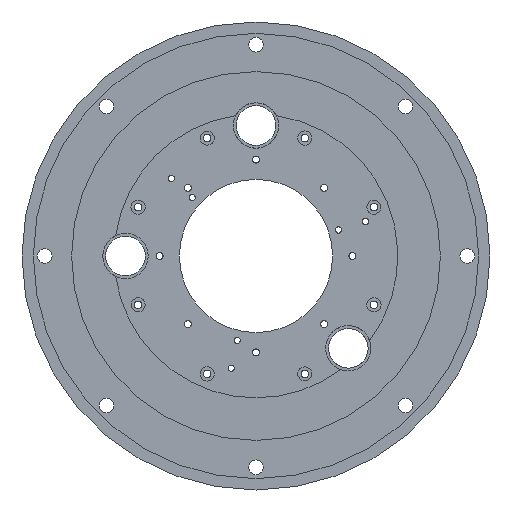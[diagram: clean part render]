
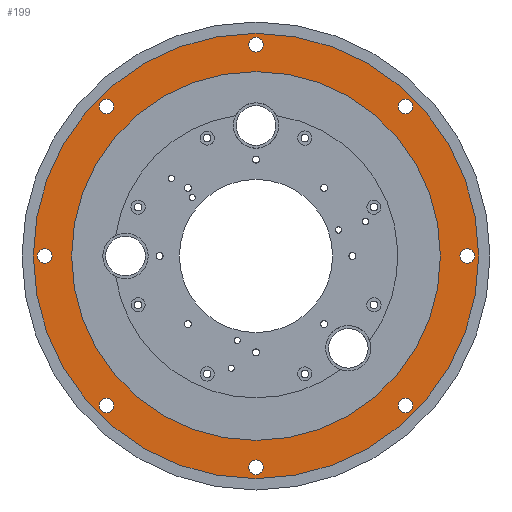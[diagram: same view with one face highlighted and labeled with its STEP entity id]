
A CAD part, front view. The second image highlights one B-rep face of the part: STEP entity #199.
In plain terms, the highlighted planar face has unit normal (0, -1, 0).
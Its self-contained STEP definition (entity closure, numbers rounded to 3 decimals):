
#199=ADVANCED_FACE('',(#569,#570,#571,#572,#573,#574,#575,#576,#577,#374),
#1776,.T.);
#374=FACE_OUTER_BOUND('',#663,.F.);
#569=FACE_BOUND('',#654,.F.);
#570=FACE_BOUND('',#655,.F.);
#571=FACE_BOUND('',#656,.F.);
#572=FACE_BOUND('',#657,.F.);
#573=FACE_BOUND('',#658,.F.);
#574=FACE_BOUND('',#659,.F.);
#575=FACE_BOUND('',#660,.F.);
#576=FACE_BOUND('',#661,.F.);
#577=FACE_BOUND('',#662,.F.);
#654=EDGE_LOOP('',(#952,#953));
#655=EDGE_LOOP('',(#954,#955));
#656=EDGE_LOOP('',(#956,#957));
#657=EDGE_LOOP('',(#958,#959));
#658=EDGE_LOOP('',(#960,#961));
#659=EDGE_LOOP('',(#962,#963));
#660=EDGE_LOOP('',(#964,#965));
#661=EDGE_LOOP('',(#966,#967));
#662=EDGE_LOOP('',(#968,#969));
#663=EDGE_LOOP('',(#970,#971));
#952=ORIENTED_EDGE('',*,*,#2177,.T.);
#953=ORIENTED_EDGE('',*,*,#2176,.T.);
#954=ORIENTED_EDGE('',*,*,#2185,.T.);
#955=ORIENTED_EDGE('',*,*,#2184,.T.);
#956=ORIENTED_EDGE('',*,*,#2193,.T.);
#957=ORIENTED_EDGE('',*,*,#2192,.T.);
#958=ORIENTED_EDGE('',*,*,#2201,.T.);
#959=ORIENTED_EDGE('',*,*,#2200,.T.);
#960=ORIENTED_EDGE('',*,*,#2227,.T.);
#961=ORIENTED_EDGE('',*,*,#2225,.T.);
#962=ORIENTED_EDGE('',*,*,#2197,.T.);
#963=ORIENTED_EDGE('',*,*,#2196,.T.);
#964=ORIENTED_EDGE('',*,*,#2189,.T.);
#965=ORIENTED_EDGE('',*,*,#2188,.T.);
#966=ORIENTED_EDGE('',*,*,#2181,.T.);
#967=ORIENTED_EDGE('',*,*,#2180,.T.);
#968=ORIENTED_EDGE('',*,*,#2173,.T.);
#969=ORIENTED_EDGE('',*,*,#2172,.T.);
#970=ORIENTED_EDGE('',*,*,#2205,.F.);
#971=ORIENTED_EDGE('',*,*,#2204,.F.);
#1776=PLANE('',#3434);
#2172=EDGE_CURVE('',#3162,#3161,#2617,.T.);
#2173=EDGE_CURVE('',#3161,#3162,#2618,.T.);
#2176=EDGE_CURVE('',#3158,#3157,#2621,.T.);
#2177=EDGE_CURVE('',#3157,#3158,#2622,.T.);
#2180=EDGE_CURVE('',#3154,#3153,#2625,.T.);
#2181=EDGE_CURVE('',#3153,#3154,#2626,.T.);
#2184=EDGE_CURVE('',#3150,#3149,#2629,.T.);
#2185=EDGE_CURVE('',#3149,#3150,#2630,.T.);
#2188=EDGE_CURVE('',#3146,#3145,#2633,.T.);
#2189=EDGE_CURVE('',#3145,#3146,#2634,.T.);
#2192=EDGE_CURVE('',#3142,#3141,#2637,.T.);
#2193=EDGE_CURVE('',#3141,#3142,#2638,.T.);
#2196=EDGE_CURVE('',#3138,#3137,#2641,.T.);
#2197=EDGE_CURVE('',#3137,#3138,#2642,.T.);
#2200=EDGE_CURVE('',#3134,#3133,#2645,.T.);
#2201=EDGE_CURVE('',#3133,#3134,#2646,.T.);
#2204=EDGE_CURVE('',#3130,#3129,#2649,.T.);
#2205=EDGE_CURVE('',#3129,#3130,#2650,.T.);
#2225=EDGE_CURVE('',#3107,#3106,#2664,.T.);
#2227=EDGE_CURVE('',#3106,#3107,#2666,.T.);
#2617=CIRCLE('',#3169,2.6);
#2618=CIRCLE('',#3170,2.6);
#2621=CIRCLE('',#3173,2.6);
#2622=CIRCLE('',#3174,2.6);
#2625=CIRCLE('',#3177,2.6);
#2626=CIRCLE('',#3178,2.6);
#2629=CIRCLE('',#3181,2.6);
#2630=CIRCLE('',#3182,2.6);
#2633=CIRCLE('',#3185,2.6);
#2634=CIRCLE('',#3186,2.6);
#2637=CIRCLE('',#3189,2.6);
#2638=CIRCLE('',#3190,2.6);
#2641=CIRCLE('',#3193,2.6);
#2642=CIRCLE('',#3194,2.6);
#2645=CIRCLE('',#3197,2.6);
#2646=CIRCLE('',#3198,2.6);
#2649=CIRCLE('',#3201,78.5);
#2650=CIRCLE('',#3202,78.5);
#2664=CIRCLE('',#3216,65.);
#2666=CIRCLE('',#3218,65.);
#3106=VERTEX_POINT('',#4898);
#3107=VERTEX_POINT('',#4899);
#3129=VERTEX_POINT('',#4921);
#3130=VERTEX_POINT('',#4922);
#3133=VERTEX_POINT('',#4925);
#3134=VERTEX_POINT('',#4926);
#3137=VERTEX_POINT('',#4929);
#3138=VERTEX_POINT('',#4930);
#3141=VERTEX_POINT('',#4933);
#3142=VERTEX_POINT('',#4934);
#3145=VERTEX_POINT('',#4937);
#3146=VERTEX_POINT('',#4938);
#3149=VERTEX_POINT('',#4941);
#3150=VERTEX_POINT('',#4942);
#3153=VERTEX_POINT('',#4945);
#3154=VERTEX_POINT('',#4946);
#3157=VERTEX_POINT('',#4949);
#3158=VERTEX_POINT('',#4950);
#3161=VERTEX_POINT('',#4953);
#3162=VERTEX_POINT('',#4954);
#3169=AXIS2_PLACEMENT_3D('',#4959,#3613,#3614);
#3170=AXIS2_PLACEMENT_3D('',#4960,#3615,#3616);
#3173=AXIS2_PLACEMENT_3D('',#4963,#3621,#3622);
#3174=AXIS2_PLACEMENT_3D('',#4964,#3623,#3624);
#3177=AXIS2_PLACEMENT_3D('',#4967,#3629,#3630);
#3178=AXIS2_PLACEMENT_3D('',#4968,#3631,#3632);
#3181=AXIS2_PLACEMENT_3D('',#4971,#3637,#3638);
#3182=AXIS2_PLACEMENT_3D('',#4972,#3639,#3640);
#3185=AXIS2_PLACEMENT_3D('',#4975,#3645,#3646);
#3186=AXIS2_PLACEMENT_3D('',#4976,#3647,#3648);
#3189=AXIS2_PLACEMENT_3D('',#4979,#3653,#3654);
#3190=AXIS2_PLACEMENT_3D('',#4980,#3655,#3656);
#3193=AXIS2_PLACEMENT_3D('',#4983,#3661,#3662);
#3194=AXIS2_PLACEMENT_3D('',#4984,#3663,#3664);
#3197=AXIS2_PLACEMENT_3D('',#4987,#3669,#3670);
#3198=AXIS2_PLACEMENT_3D('',#4988,#3671,#3672);
#3201=AXIS2_PLACEMENT_3D('',#4991,#3677,#3678);
#3202=AXIS2_PLACEMENT_3D('',#4992,#3679,#3680);
#3216=AXIS2_PLACEMENT_3D('',#5012,#3713,#3714);
#3218=AXIS2_PLACEMENT_3D('',#5014,#3717,#3718);
#3434=AXIS2_PLACEMENT_3D('',#5405,#4324,#4325);
#3613=DIRECTION('',(0.,-1.,0.));
#3614=DIRECTION('',(0.707,0.,-0.707));
#3615=DIRECTION('',(0.,-1.,0.));
#3616=DIRECTION('',(-0.707,0.,0.707));
#3621=DIRECTION('',(0.,-1.,0.));
#3622=DIRECTION('',(1.,0.,0.));
#3623=DIRECTION('',(0.,-1.,0.));
#3624=DIRECTION('',(-1.,0.,0.));
#3629=DIRECTION('',(0.,-1.,0.));
#3630=DIRECTION('',(0.707,0.,0.707));
#3631=DIRECTION('',(0.,-1.,0.));
#3632=DIRECTION('',(-0.707,0.,-0.707));
#3637=DIRECTION('',(0.,-1.,0.));
#3638=DIRECTION('',(0.,0.,1.));
#3639=DIRECTION('',(0.,-1.,0.));
#3640=DIRECTION('',(0.,0.,-1.));
#3645=DIRECTION('',(0.,-1.,0.));
#3646=DIRECTION('',(-0.707,0.,0.707));
#3647=DIRECTION('',(0.,-1.,0.));
#3648=DIRECTION('',(0.707,0.,-0.707));
#3653=DIRECTION('',(0.,-1.,0.));
#3654=DIRECTION('',(-1.,0.,0.));
#3655=DIRECTION('',(0.,-1.,0.));
#3656=DIRECTION('',(1.,0.,0.));
#3661=DIRECTION('',(0.,-1.,0.));
#3662=DIRECTION('',(-0.707,0.,-0.707));
#3663=DIRECTION('',(0.,-1.,0.));
#3664=DIRECTION('',(0.707,0.,0.707));
#3669=DIRECTION('',(0.,-1.,0.));
#3670=DIRECTION('',(0.,0.,-1.));
#3671=DIRECTION('',(0.,-1.,0.));
#3672=DIRECTION('',(0.,0.,1.));
#3677=DIRECTION('',(0.,-1.,0.));
#3678=DIRECTION('',(0.,0.,-1.));
#3679=DIRECTION('',(0.,-1.,0.));
#3680=DIRECTION('',(0.,0.,1.));
#3713=DIRECTION('',(0.,-1.,0.));
#3714=DIRECTION('',(0.,0.,1.));
#3717=DIRECTION('',(0.,-1.,0.));
#3718=DIRECTION('',(0.,0.,-1.));
#4324=DIRECTION('',(0.,-1.,0.));
#4325=DIRECTION('',(0.,0.,1.));
#4898=CARTESIAN_POINT('',(-50.,64.8,-236.));
#4899=CARTESIAN_POINT('',(-50.,64.8,-106.));
#4921=CARTESIAN_POINT('',(-50.,64.8,-92.5));
#4922=CARTESIAN_POINT('',(-50.,64.8,-249.5));
#4925=CARTESIAN_POINT('',(24.5,64.8,-168.4));
#4926=CARTESIAN_POINT('',(24.5,64.8,-173.6));
#4929=CARTESIAN_POINT('',(4.518,64.8,-221.841));
#4930=CARTESIAN_POINT('',(0.841,64.8,-225.518));
#4933=CARTESIAN_POINT('',(-47.4,64.8,-245.5));
#4934=CARTESIAN_POINT('',(-52.6,64.8,-245.5));
#4937=CARTESIAN_POINT('',(-100.841,64.8,-225.518));
#4938=CARTESIAN_POINT('',(-104.518,64.8,-221.841));
#4941=CARTESIAN_POINT('',(-124.5,64.8,-173.6));
#4942=CARTESIAN_POINT('',(-124.5,64.8,-168.4));
#4945=CARTESIAN_POINT('',(-104.518,64.8,-120.159));
#4946=CARTESIAN_POINT('',(-100.841,64.8,-116.482));
#4949=CARTESIAN_POINT('',(-52.6,64.8,-96.5));
#4950=CARTESIAN_POINT('',(-47.4,64.8,-96.5));
#4953=CARTESIAN_POINT('',(0.841,64.8,-116.482));
#4954=CARTESIAN_POINT('',(4.518,64.8,-120.159));
#4959=CARTESIAN_POINT('',(2.679,64.8,-118.321));
#4960=CARTESIAN_POINT('',(2.679,64.8,-118.321));
#4963=CARTESIAN_POINT('',(-50.,64.8,-96.5));
#4964=CARTESIAN_POINT('',(-50.,64.8,-96.5));
#4967=CARTESIAN_POINT('',(-102.679,64.8,-118.321));
#4968=CARTESIAN_POINT('',(-102.679,64.8,-118.321));
#4971=CARTESIAN_POINT('',(-124.5,64.8,-171.));
#4972=CARTESIAN_POINT('',(-124.5,64.8,-171.));
#4975=CARTESIAN_POINT('',(-102.679,64.8,-223.679));
#4976=CARTESIAN_POINT('',(-102.679,64.8,-223.679));
#4979=CARTESIAN_POINT('',(-50.,64.8,-245.5));
#4980=CARTESIAN_POINT('',(-50.,64.8,-245.5));
#4983=CARTESIAN_POINT('',(2.679,64.8,-223.679));
#4984=CARTESIAN_POINT('',(2.679,64.8,-223.679));
#4987=CARTESIAN_POINT('',(24.5,64.8,-171.));
#4988=CARTESIAN_POINT('',(24.5,64.8,-171.));
#4991=CARTESIAN_POINT('',(-50.,64.8,-171.));
#4992=CARTESIAN_POINT('',(-50.,64.8,-171.));
#5012=CARTESIAN_POINT('',(-50.,64.8,-171.));
#5014=CARTESIAN_POINT('',(-50.,64.8,-171.));
#5405=CARTESIAN_POINT('',(32.5,64.8,-253.5));
